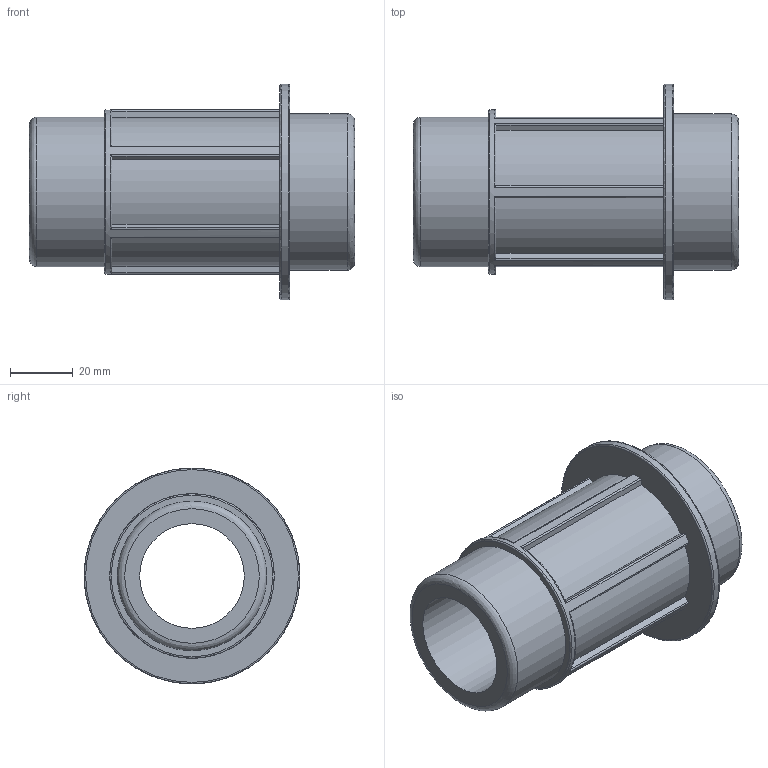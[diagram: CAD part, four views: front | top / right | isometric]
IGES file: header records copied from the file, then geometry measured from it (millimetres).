
Global section: file name: 078901050015.ipt; native system: Autodesk Inventor 2015; preprocessor: unknown; author: KIM; date: 20180409.130858; units: millimetre
Bounding box: 104 x 69 x 69 mm (x, y, z)
Volume: 108189.2 mm3; surface area: 34261 mm2
Topology: 1 solids, 1 shells, 57 faces, 163 edges, 111 vertices
Faces by surface type: plane 23, cylinder 22, revolution 12
Full cylindrical faces by diameter (mm): 47.803 x1, 50 x1, 52.583 x1, 69 x1
